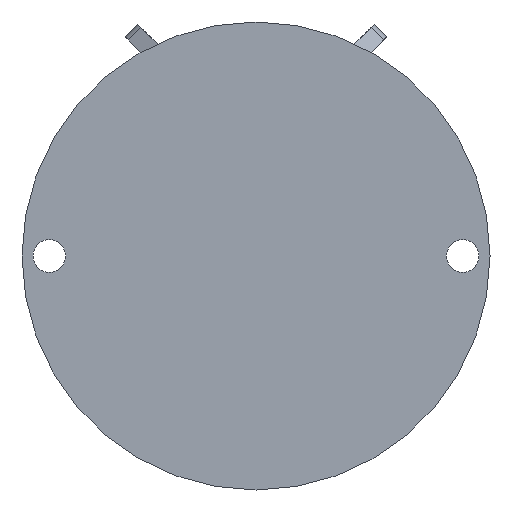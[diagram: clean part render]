
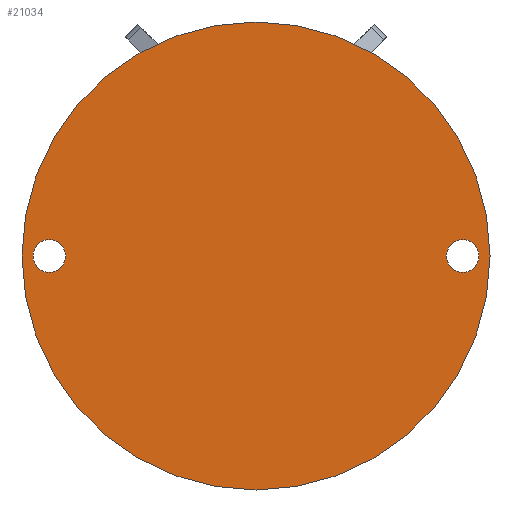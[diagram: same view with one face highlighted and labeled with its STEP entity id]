
A CAD part, front view. The second image highlights one B-rep face of the part: STEP entity #21034.
In plain terms, the highlighted planar face has unit normal (0, -1, 0).
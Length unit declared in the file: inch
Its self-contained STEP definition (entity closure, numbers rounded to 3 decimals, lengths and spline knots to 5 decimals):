
#367 = AXIS2_PLACEMENT_3D ( 'NONE', #24910, #17940, #6285 ) ;
#2023 = DIRECTION ( 'NONE',  ( 0., 0., 1. ) ) ;
#3064 = CARTESIAN_POINT ( 'NONE',  ( 0., -0.261, 0. ) ) ;
#3147 = CARTESIAN_POINT ( 'NONE',  ( -0.774, -0.261, 0. ) ) ;
#3701 = AXIS2_PLACEMENT_3D ( 'NONE', #15425, #27299, #12948 ) ;
#3965 = FACE_BOUND ( 'NONE', #16118, .T. ) ;
#4088 = CARTESIAN_POINT ( 'NONE',  ( 0.7175, -0.261, 0. ) ) ;
#4246 = CARTESIAN_POINT ( 'NONE',  ( 0.774, -0.261, 0. ) ) ;
#4335 = DIRECTION ( 'NONE',  ( -1., 0., 0. ) ) ;
#6285 = DIRECTION ( 'NONE',  ( -1., 0., 0. ) ) ;
#6469 = DIRECTION ( 'NONE',  ( -1., 0., 0. ) ) ;
#6934 = FACE_BOUND ( 'NONE', #9128, .T. ) ;
#8999 = CIRCLE ( 'NONE', #29027, 0.81225 ) ;
#9013 = ORIENTED_EDGE ( 'NONE', *, *, #21101, .F. ) ;
#9128 = EDGE_LOOP ( 'NONE', ( #19152, #14773 ) ) ;
#9288 = PLANE ( 'NONE',  #14203 ) ;
#10255 = EDGE_CURVE ( 'NONE', #21755, #14844, #23680, .T. ) ;
#10604 = AXIS2_PLACEMENT_3D ( 'NONE', #29967, #15899, #4335 ) ;
#11445 = EDGE_CURVE ( 'NONE', #15946, #15092, #8999, .T. ) ;
#11611 = CIRCLE ( 'NONE', #3701, 0.0565 ) ;
#12140 = DIRECTION ( 'NONE',  ( 0., 0., 1. ) ) ;
#12948 = DIRECTION ( 'NONE',  ( -1., 0., 0. ) ) ;
#13437 = EDGE_LOOP ( 'NONE', ( #9013, #14341 ) ) ;
#14203 = AXIS2_PLACEMENT_3D ( 'NONE', #25473, #15949, #2023 ) ;
#14341 = ORIENTED_EDGE ( 'NONE', *, *, #11445, .F. ) ;
#14513 = CARTESIAN_POINT ( 'NONE',  ( 0., -0.261, 0. ) ) ;
#14773 = ORIENTED_EDGE ( 'NONE', *, *, #15643, .F. ) ;
#14844 = VERTEX_POINT ( 'NONE', #3147 ) ;
#15092 = VERTEX_POINT ( 'NONE', #15833 ) ;
#15425 = CARTESIAN_POINT ( 'NONE',  ( -0.7175, -0.261, 0. ) ) ;
#15643 = EDGE_CURVE ( 'NONE', #27232, #18293, #22109, .T. ) ;
#15833 = CARTESIAN_POINT ( 'NONE',  ( 0., -0.261, 0.81225 ) ) ;
#15899 = DIRECTION ( 'NONE',  ( 0., -1., 0. ) ) ;
#15946 = VERTEX_POINT ( 'NONE', #26529 ) ;
#15949 = DIRECTION ( 'NONE',  ( 0., 1., 0. ) ) ;
#16118 = EDGE_LOOP ( 'NONE', ( #17751, #27732 ) ) ;
#17176 = FACE_OUTER_BOUND ( 'NONE', #13437, .T. ) ;
#17751 = ORIENTED_EDGE ( 'NONE', *, *, #27196, .F. ) ;
#17940 = DIRECTION ( 'NONE',  ( 0., -1., 0. ) ) ;
#18293 = VERTEX_POINT ( 'NONE', #30081 ) ;
#18893 = AXIS2_PLACEMENT_3D ( 'NONE', #14513, #25875, #12140 ) ;
#19152 = ORIENTED_EDGE ( 'NONE', *, *, #29597, .F. ) ;
#19653 = DIRECTION ( 'NONE',  ( 0., 0., 1. ) ) ;
#20311 = CIRCLE ( 'NONE', #21139, 0.0565 ) ;
#21034 = ADVANCED_FACE ( 'NONE', ( #17176, #3965, #6934 ), #9288, .F. ) ;
#21101 = EDGE_CURVE ( 'NONE', #15092, #15946, #26696, .T. ) ;
#21139 = AXIS2_PLACEMENT_3D ( 'NONE', #4088, #29937, #6469 ) ;
#21687 = CARTESIAN_POINT ( 'NONE',  ( -0.661, -0.261, 0. ) ) ;
#21755 = VERTEX_POINT ( 'NONE', #21687 ) ;
#22109 = CIRCLE ( 'NONE', #10604, 0.0565 ) ;
#23680 = CIRCLE ( 'NONE', #367, 0.0565 ) ;
#24084 = DIRECTION ( 'NONE',  ( 0., 1., 0. ) ) ;
#24910 = CARTESIAN_POINT ( 'NONE',  ( -0.7175, -0.261, 0. ) ) ;
#25473 = CARTESIAN_POINT ( 'NONE',  ( 0.2785, -0.261, 0. ) ) ;
#25875 = DIRECTION ( 'NONE',  ( 0., 1., 0. ) ) ;
#26529 = CARTESIAN_POINT ( 'NONE',  ( 0., -0.261, -0.81225 ) ) ;
#26696 = CIRCLE ( 'NONE', #18893, 0.81225 ) ;
#27196 = EDGE_CURVE ( 'NONE', #14844, #21755, #11611, .T. ) ;
#27232 = VERTEX_POINT ( 'NONE', #4246 ) ;
#27299 = DIRECTION ( 'NONE',  ( 0., -1., 0. ) ) ;
#27732 = ORIENTED_EDGE ( 'NONE', *, *, #10255, .F. ) ;
#29027 = AXIS2_PLACEMENT_3D ( 'NONE', #3064, #24084, #19653 ) ;
#29597 = EDGE_CURVE ( 'NONE', #18293, #27232, #20311, .T. ) ;
#29937 = DIRECTION ( 'NONE',  ( 0., -1., 0. ) ) ;
#29967 = CARTESIAN_POINT ( 'NONE',  ( 0.7175, -0.261, 0. ) ) ;
#30081 = CARTESIAN_POINT ( 'NONE',  ( 0.661, -0.261, 0. ) ) ;
